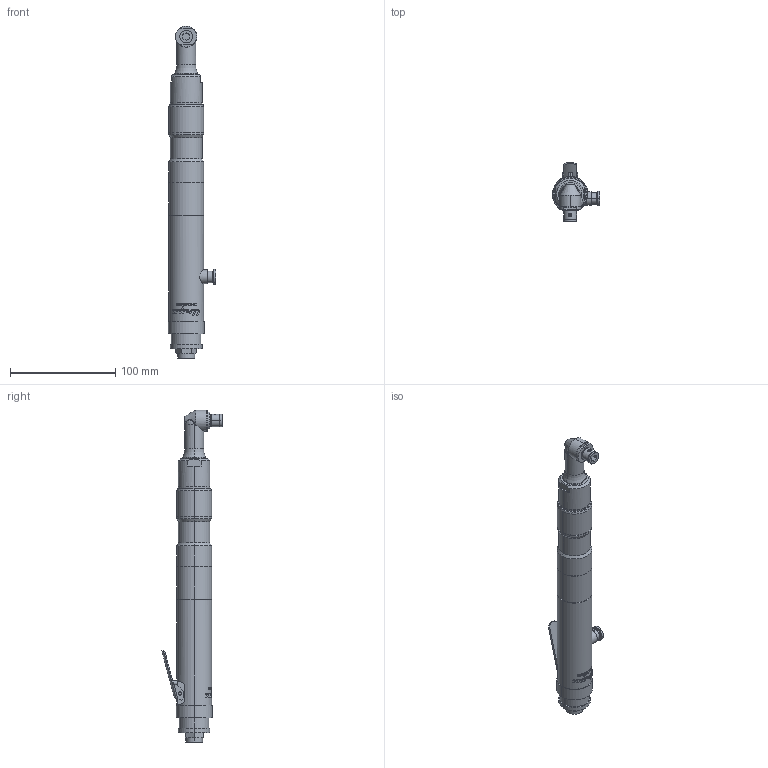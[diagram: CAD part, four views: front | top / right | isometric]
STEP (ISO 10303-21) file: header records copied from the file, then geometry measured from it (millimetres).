
FILE_DESCRIPTION (( 'STEP AP203' ), '1' );
FILE_NAME ('US-LT40B-08C.STEP', '2006-03-22T04:16:22', ( '' ), ( '' ), 'SwSTEP 2.0', 'SolidWorks 2003240', '' );
FILE_SCHEMA (( 'CONFIG_CONTROL_DESIGN' ));
Length unit declared in the file: millimetre
Products named in the file (9): 4610256_US-LT40B-08C_蹬怮椔; 4613698_US-LT40B-08C_蹬怮椔; US-LT40B-08C; 4694305_US-LT40B-08C_蹬怮椔; 4694417_US-LT40B-08C_蹬怮椔; 4611146_US-LT40B-08C_蹬怮椔; 4661075_US-LT40B-08C_蹬怮椔; 8930571_US-LT40B-08C_蹬怮椔; 9810020_US-LT40B-08C_蹬怮椔
Assembly tree (8 placements, depth 2):
  US-LT40B-08C
    4694417_US-LT40B-08C_蹬怮椔
    9810020_US-LT40B-08C_蹬怮椔
    4661075_US-LT40B-08C_蹬怮椔
    8930571_US-LT40B-08C_蹬怮椔
    4610256_US-LT40B-08C_蹬怮椔
    4613698_US-LT40B-08C_蹬怮椔
    4611146_US-LT40B-08C_蹬怮椔
    4694305_US-LT40B-08C_蹬怮椔
Bounding box: 45 x 57.12 x 315 mm (x, y, z)
Volume: 228683.2 mm3; surface area: 40544.9 mm2
Topology: 8 solids, 8 shells, 512 faces, 1299 edges, 850 vertices
Faces by surface type: plane 171, cylinder 171, bspline 141, cone 21, sphere 6, torus 2
Entity records: 26458 total; most frequent: CARTESIAN_POINT 14289, ORIENTED_EDGE 2584, DIRECTION 1888, EDGE_CURVE 1292, VERTEX_POINT 847, AXIS2_PLACEMENT_3D 686, EDGE_LOOP 569, VECTOR 516
